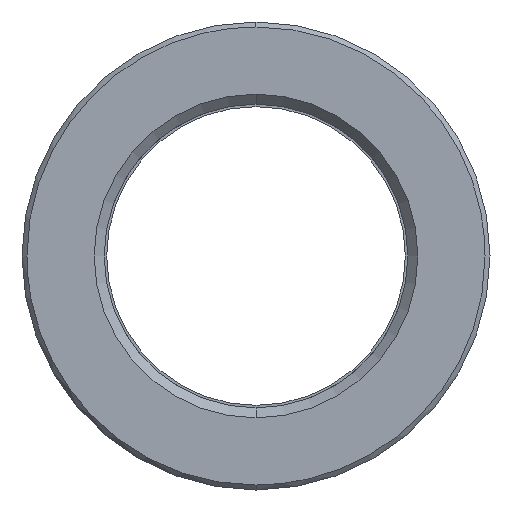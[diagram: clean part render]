
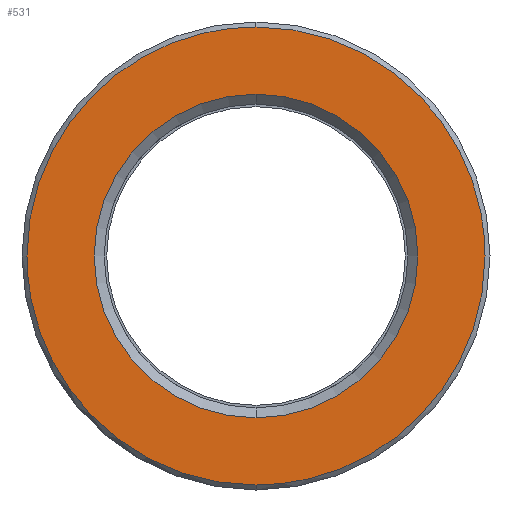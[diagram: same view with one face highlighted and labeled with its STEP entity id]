
A CAD part, left-side view. The second image highlights one B-rep face of the part: STEP entity #531.
In plain terms, the highlighted planar face has unit normal (-1, 0, 0).
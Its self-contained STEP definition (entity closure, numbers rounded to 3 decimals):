
#311=CARTESIAN_POINT('Axis2P3D Location',(0.,0.,0.)) ;
#315=CARTESIAN_POINT('Vertex',(0.,16.25,0.)) ;
#317=CARTESIAN_POINT('Vertex',(0.,0.,16.25)) ;
#320=CARTESIAN_POINT('Axis2P3D Location',(0.,0.,0.)) ;
#324=CARTESIAN_POINT('Vertex',(0.,0.,-16.25)) ;
#351=CARTESIAN_POINT('Axis2P3D Location',(0.,0.,0.)) ;
#355=CARTESIAN_POINT('Vertex',(0.,-16.25,0.)) ;
#358=CARTESIAN_POINT('Axis2P3D Location',(0.,0.,0.)) ;
#438=CARTESIAN_POINT('Axis2P3D Location',(0.,23.,0.)) ;
#444=CARTESIAN_POINT('Control Point',(0.,0.,-23.)) ;
#445=CARTESIAN_POINT('Control Point',(0.,1.232,-23.)) ;
#446=CARTESIAN_POINT('Control Point',(0.,2.465,-22.917)) ;
#447=CARTESIAN_POINT('Control Point',(0.,3.69,-22.752)) ;
#448=CARTESIAN_POINT('Control Point',(0.,6.977,-22.083)) ;
#449=CARTESIAN_POINT('Control Point',(0.,10.102,-20.826)) ;
#450=CARTESIAN_POINT('Control Point',(0.,11.977,-19.807)) ;
#451=CARTESIAN_POINT('Control Point',(0.,15.458,-17.357)) ;
#452=CARTESIAN_POINT('Control Point',(0.,18.293,-14.182)) ;
#453=CARTESIAN_POINT('Control Point',(0.,19.521,-12.437)) ;
#454=CARTESIAN_POINT('Control Point',(0.,21.386,-9.007)) ;
#455=CARTESIAN_POINT('Control Point',(0.,22.493,-5.271)) ;
#456=CARTESIAN_POINT('Control Point',(0.,22.831,-3.528)) ;
#457=CARTESIAN_POINT('Control Point',(0.,23.,-1.764)) ;
#458=CARTESIAN_POINT('Control Point',(0.,23.,0.)) ;
#459=CARTESIAN_POINT('Vertex',(0.,0.,-23.)) ;
#461=CARTESIAN_POINT('Vertex',(0.,23.,0.)) ;
#465=CARTESIAN_POINT('Control Point',(0.,-23.,0.)) ;
#466=CARTESIAN_POINT('Control Point',(0.,-23.,-2.115)) ;
#467=CARTESIAN_POINT('Control Point',(0.,-22.757,-4.229)) ;
#468=CARTESIAN_POINT('Control Point',(0.,-22.271,-6.306)) ;
#469=CARTESIAN_POINT('Control Point',(0.,-20.83,-10.312)) ;
#470=CARTESIAN_POINT('Control Point',(0.,-18.518,-13.886)) ;
#471=CARTESIAN_POINT('Control Point',(0.,-17.161,-15.532)) ;
#472=CARTESIAN_POINT('Control Point',(0.,-14.093,-18.483)) ;
#473=CARTESIAN_POINT('Control Point',(0.,-10.435,-20.661)) ;
#474=CARTESIAN_POINT('Control Point',(0.,-8.489,-21.534)) ;
#475=CARTESIAN_POINT('Control Point',(0.,-5.613,-22.443)) ;
#476=CARTESIAN_POINT('Control Point',(0.,-2.644,-22.873)) ;
#477=CARTESIAN_POINT('Control Point',(0.,-1.764,-22.958)) ;
#478=CARTESIAN_POINT('Control Point',(0.,-0.882,-23.)) ;
#479=CARTESIAN_POINT('Control Point',(0.,0.,-23.)) ;
#480=CARTESIAN_POINT('Vertex',(0.,-23.,0.)) ;
#484=CARTESIAN_POINT('Control Point',(0.,0.,23.)) ;
#485=CARTESIAN_POINT('Control Point',(0.,-1.232,23.)) ;
#486=CARTESIAN_POINT('Control Point',(0.,-2.465,22.917)) ;
#487=CARTESIAN_POINT('Control Point',(0.,-3.69,22.752)) ;
#488=CARTESIAN_POINT('Control Point',(0.,-6.977,22.083)) ;
#489=CARTESIAN_POINT('Control Point',(0.,-10.102,20.826)) ;
#490=CARTESIAN_POINT('Control Point',(0.,-11.977,19.807)) ;
#491=CARTESIAN_POINT('Control Point',(0.,-15.458,17.357)) ;
#492=CARTESIAN_POINT('Control Point',(0.,-18.293,14.182)) ;
#493=CARTESIAN_POINT('Control Point',(0.,-19.521,12.437)) ;
#494=CARTESIAN_POINT('Control Point',(0.,-21.386,9.007)) ;
#495=CARTESIAN_POINT('Control Point',(0.,-22.493,5.271)) ;
#496=CARTESIAN_POINT('Control Point',(0.,-22.831,3.528)) ;
#497=CARTESIAN_POINT('Control Point',(0.,-23.,1.764)) ;
#498=CARTESIAN_POINT('Control Point',(0.,-23.,0.)) ;
#499=CARTESIAN_POINT('Vertex',(0.,0.,23.)) ;
#503=CARTESIAN_POINT('Control Point',(0.,23.,0.)) ;
#504=CARTESIAN_POINT('Control Point',(0.,23.,2.115)) ;
#505=CARTESIAN_POINT('Control Point',(0.,22.757,4.229)) ;
#506=CARTESIAN_POINT('Control Point',(0.,22.271,6.306)) ;
#507=CARTESIAN_POINT('Control Point',(0.,20.83,10.312)) ;
#508=CARTESIAN_POINT('Control Point',(0.,18.518,13.886)) ;
#509=CARTESIAN_POINT('Control Point',(0.,17.161,15.532)) ;
#510=CARTESIAN_POINT('Control Point',(0.,14.093,18.483)) ;
#511=CARTESIAN_POINT('Control Point',(0.,10.435,20.661)) ;
#512=CARTESIAN_POINT('Control Point',(0.,8.489,21.534)) ;
#513=CARTESIAN_POINT('Control Point',(0.,5.613,22.443)) ;
#514=CARTESIAN_POINT('Control Point',(0.,2.644,22.873)) ;
#515=CARTESIAN_POINT('Control Point',(0.,1.764,22.958)) ;
#516=CARTESIAN_POINT('Control Point',(0.,0.882,23.)) ;
#517=CARTESIAN_POINT('Control Point',(0.,0.,23.)) ;
#312=DIRECTION('Axis2P3D Direction',(-1.,0.,0.)) ;
#321=DIRECTION('Axis2P3D Direction',(-1.,0.,0.)) ;
#352=DIRECTION('Axis2P3D Direction',(-1.,0.,0.)) ;
#359=DIRECTION('Axis2P3D Direction',(-1.,0.,0.)) ;
#439=DIRECTION('Axis2P3D Direction',(-1.,0.,0.)) ;
#440=DIRECTION('Axis2P3D XDirection',(0.,0.,1.)) ;
#313=AXIS2_PLACEMENT_3D('Circle Axis2P3D',#311,#312,$) ;
#322=AXIS2_PLACEMENT_3D('Circle Axis2P3D',#320,#321,$) ;
#353=AXIS2_PLACEMENT_3D('Circle Axis2P3D',#351,#352,$) ;
#360=AXIS2_PLACEMENT_3D('Circle Axis2P3D',#358,#359,$) ;
#441=AXIS2_PLACEMENT_3D('Plane Axis2P3D',#438,#439,#440) ;
#520=ORIENTED_EDGE('',*,*,#463,.F.) ;
#521=ORIENTED_EDGE('',*,*,#482,.F.) ;
#522=ORIENTED_EDGE('',*,*,#501,.F.) ;
#523=ORIENTED_EDGE('',*,*,#518,.F.) ;
#526=ORIENTED_EDGE('',*,*,#319,.T.) ;
#527=ORIENTED_EDGE('',*,*,#362,.T.) ;
#528=ORIENTED_EDGE('',*,*,#357,.T.) ;
#529=ORIENTED_EDGE('',*,*,#326,.T.) ;
#530=FACE_BOUND('',#525,.T.) ;
#531=ADVANCED_FACE('553-30X136',(#524,#530),#442,.T.) ;
#443=B_SPLINE_CURVE_WITH_KNOTS('',5,(#444,#445,#446,#447,#448,#449,#450,#451,#452,#453,#454,#455,#456,#457,#458),.UNSPECIFIED.,.F.,.U.,(6,3,3,3,6),(51.093,59.807,74.759,89.711,102.186),.UNSPECIFIED.) ;
#464=B_SPLINE_CURVE_WITH_KNOTS('',5,(#465,#466,#467,#468,#469,#470,#471,#472,#473,#474,#475,#476,#477,#478,#479),.UNSPECIFIED.,.F.,.U.,(6,3,3,3,6),(0.,14.952,29.904,44.855,51.093),.UNSPECIFIED.) ;
#483=B_SPLINE_CURVE_WITH_KNOTS('',5,(#484,#485,#486,#487,#488,#489,#490,#491,#492,#493,#494,#495,#496,#497,#498),.UNSPECIFIED.,.F.,.U.,(6,3,3,3,6),(51.093,59.807,74.759,89.711,102.186),.UNSPECIFIED.) ;
#502=B_SPLINE_CURVE_WITH_KNOTS('',5,(#503,#504,#505,#506,#507,#508,#509,#510,#511,#512,#513,#514,#515,#516,#517),.UNSPECIFIED.,.F.,.U.,(6,3,3,3,6),(0.,14.952,29.904,44.855,51.093),.UNSPECIFIED.) ;
#314=CIRCLE('generated circle',#313,16.25) ;
#323=CIRCLE('generated circle',#322,16.25) ;
#354=CIRCLE('generated circle',#353,16.25) ;
#361=CIRCLE('generated circle',#360,16.25) ;
#319=EDGE_CURVE('',#316,#318,#314,.F.) ;
#326=EDGE_CURVE('',#325,#316,#323,.F.) ;
#357=EDGE_CURVE('',#356,#325,#354,.F.) ;
#362=EDGE_CURVE('',#318,#356,#361,.F.) ;
#463=EDGE_CURVE('',#460,#462,#443,.T.) ;
#482=EDGE_CURVE('',#481,#460,#464,.T.) ;
#501=EDGE_CURVE('',#500,#481,#483,.T.) ;
#518=EDGE_CURVE('',#462,#500,#502,.T.) ;
#519=EDGE_LOOP('',(#520,#521,#522,#523)) ;
#525=EDGE_LOOP('',(#526,#527,#528,#529)) ;
#524=FACE_OUTER_BOUND('',#519,.T.) ;
#442=PLANE('Plane',#441) ;
#316=VERTEX_POINT('',#315) ;
#318=VERTEX_POINT('',#317) ;
#325=VERTEX_POINT('',#324) ;
#356=VERTEX_POINT('',#355) ;
#460=VERTEX_POINT('',#459) ;
#462=VERTEX_POINT('',#461) ;
#481=VERTEX_POINT('',#480) ;
#500=VERTEX_POINT('',#499) ;
